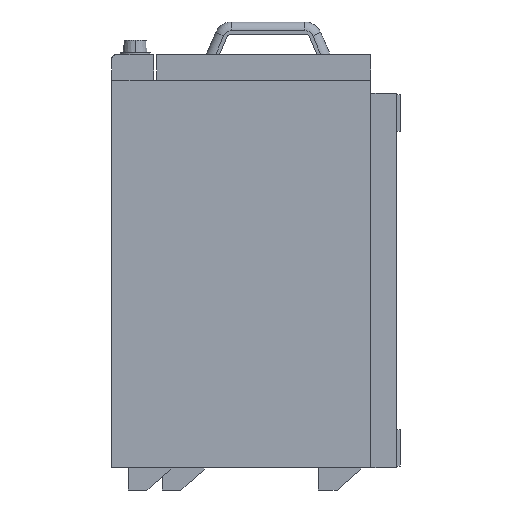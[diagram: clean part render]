
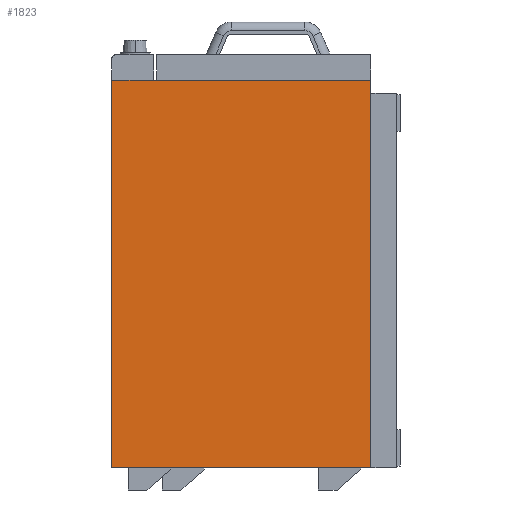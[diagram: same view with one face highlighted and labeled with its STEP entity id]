
A CAD part, left-side view. The second image highlights one B-rep face of the part: STEP entity #1823.
In plain terms, the highlighted planar face has unit normal (-1, 0, 0).
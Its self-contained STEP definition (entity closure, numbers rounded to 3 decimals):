
#123 = CARTESIAN_POINT ( 'NONE',  ( 0., 337., -68. ) ) ;
#224 = EDGE_CURVE ( 'NONE', #1856, #1820, #2632, .T. ) ;
#286 = LINE ( 'NONE', #123, #1756 ) ;
#289 = FACE_OUTER_BOUND ( 'NONE', #1995, .T. ) ;
#342 = CARTESIAN_POINT ( 'NONE',  ( 0., 34.5, -68. ) ) ;
#362 = CARTESIAN_POINT ( 'NONE',  ( 0., 34.5, -68. ) ) ;
#467 = EDGE_CURVE ( 'NONE', #2659, #1322, #1004, .T. ) ;
#531 = VECTOR ( 'NONE', #2455, 1000. ) ;
#727 = CARTESIAN_POINT ( 'NONE',  ( 0., 34.5, -68. ) ) ;
#810 = DIRECTION ( 'NONE',  ( 0., -1., 0. ) ) ;
#979 = DIRECTION ( 'NONE',  ( 0., 0., -1. ) ) ;
#1004 = LINE ( 'NONE', #2391, #2418 ) ;
#1021 = LINE ( 'NONE', #2398, #2436 ) ;
#1079 = VERTEX_POINT ( 'NONE', #1741 ) ;
#1121 = VERTEX_POINT ( 'NONE', #3340 ) ;
#1162 = ORIENTED_EDGE ( 'NONE', *, *, #467, .F. ) ;
#1231 = LINE ( 'NONE', #342, #531 ) ;
#1322 = VERTEX_POINT ( 'NONE', #2114 ) ;
#1501 = EDGE_CURVE ( 'NONE', #1856, #1322, #2988, .T. ) ;
#1641 = VECTOR ( 'NONE', #2196, 1000. ) ;
#1741 = CARTESIAN_POINT ( 'NONE',  ( 0., 337., -520. ) ) ;
#1756 = VECTOR ( 'NONE', #1958, 1000. ) ;
#1820 = VERTEX_POINT ( 'NONE', #3096 ) ;
#1823 = ADVANCED_FACE ( 'NONE', ( #289 ), #2304, .F. ) ;
#1849 = DIRECTION ( 'NONE',  ( 0., -1., 0. ) ) ;
#1856 = VERTEX_POINT ( 'NONE', #2586 ) ;
#1916 = VECTOR ( 'NONE', #3051, 1000. ) ;
#1958 = DIRECTION ( 'NONE',  ( 0., 0., -1. ) ) ;
#1995 = EDGE_LOOP ( 'NONE', ( #2713, #2071, #1162, #2392, #2456, #2876 ) ) ;
#2071 = ORIENTED_EDGE ( 'NONE', *, *, #1501, .T. ) ;
#2114 = CARTESIAN_POINT ( 'NONE',  ( 0., 284.5, -68. ) ) ;
#2168 = EDGE_CURVE ( 'NONE', #2659, #1121, #1231, .T. ) ;
#2196 = DIRECTION ( 'NONE',  ( 0., 1., 0. ) ) ;
#2277 = AXIS2_PLACEMENT_3D ( 'NONE', #727, #2571, #979 ) ;
#2304 = PLANE ( 'NONE',  #2277 ) ;
#2391 = CARTESIAN_POINT ( 'NONE',  ( 0., 34.5, -68. ) ) ;
#2392 = ORIENTED_EDGE ( 'NONE', *, *, #2168, .T. ) ;
#2398 = CARTESIAN_POINT ( 'NONE',  ( 0., 34.5, -520. ) ) ;
#2418 = VECTOR ( 'NONE', #810, 1000. ) ;
#2436 = VECTOR ( 'NONE', #1849, 1000. ) ;
#2455 = DIRECTION ( 'NONE',  ( 0., 1., 0. ) ) ;
#2456 = ORIENTED_EDGE ( 'NONE', *, *, #2887, .T. ) ;
#2571 = DIRECTION ( 'NONE',  ( 1., 0., 0. ) ) ;
#2586 = CARTESIAN_POINT ( 'NONE',  ( 0., 34.5, -68. ) ) ;
#2632 = LINE ( 'NONE', #3301, #1916 ) ;
#2647 = CARTESIAN_POINT ( 'NONE',  ( 0., 288., -68. ) ) ;
#2659 = VERTEX_POINT ( 'NONE', #2647 ) ;
#2682 = EDGE_CURVE ( 'NONE', #1079, #1820, #1021, .T. ) ;
#2713 = ORIENTED_EDGE ( 'NONE', *, *, #224, .F. ) ;
#2876 = ORIENTED_EDGE ( 'NONE', *, *, #2682, .T. ) ;
#2887 = EDGE_CURVE ( 'NONE', #1121, #1079, #286, .T. ) ;
#2988 = LINE ( 'NONE', #362, #1641 ) ;
#3051 = DIRECTION ( 'NONE',  ( 0., 0., -1. ) ) ;
#3096 = CARTESIAN_POINT ( 'NONE',  ( 0., 34.5, -520. ) ) ;
#3301 = CARTESIAN_POINT ( 'NONE',  ( 0., 34.5, -68. ) ) ;
#3340 = CARTESIAN_POINT ( 'NONE',  ( 0., 337., -68. ) ) ;
